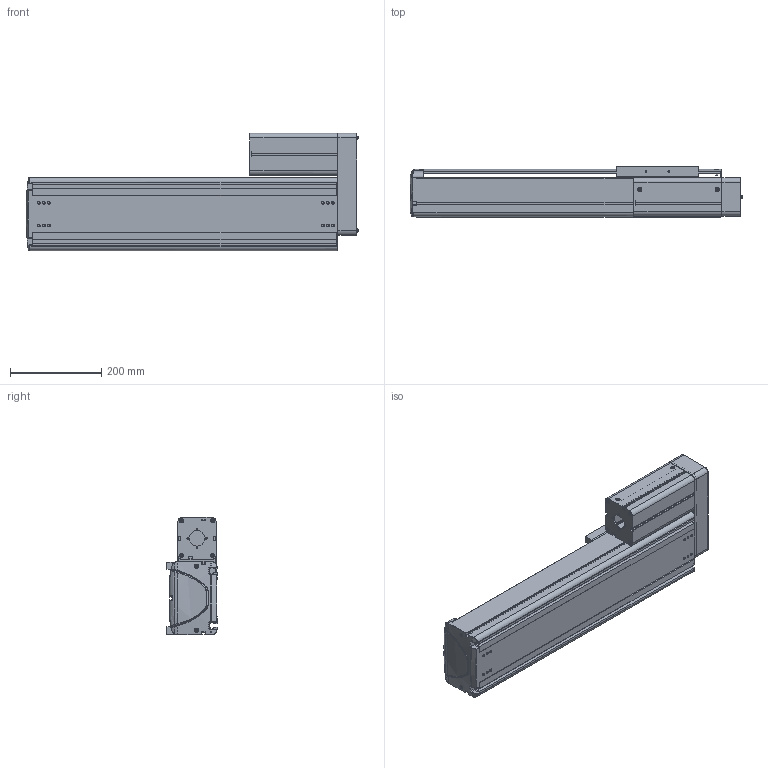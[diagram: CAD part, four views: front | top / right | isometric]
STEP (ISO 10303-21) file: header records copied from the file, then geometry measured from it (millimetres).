
FILE_DESCRIPTION((''),'2;1');
FILE_NAME('BE50F-UR-M_B-40_IGS_PRT','2017-06-18T',(' '),(''),'PRO/ENGINEER BY PARAMETRIC TECHNOLOGY CORPORATION, 2015030','PRO/ENGINEER BY PARAMETRIC TECHNOLOGY CORPORATION, 2015030','');
FILE_SCHEMA(('CONFIG_CONTROL_DESIGN'));
Length unit declared in the file: millimetre
Products named in the file (1): BE50F-UR-M_B-40_IGS_PRT
Bounding box: 725.88 x 110 x 257 mm (x, y, z)
Volume: 3805891.6 mm3; surface area: 1418986.7 mm2
Topology: 2 solids, 111 shells, 2115 faces, 5684 edges, 3698 vertices
Faces by surface type: plane 996, cylinder 865, cone 111, torus 59, bspline 52, sphere 32
Entity records: 69381 total; most frequent: CARTESIAN_POINT 15647, DIRECTION 11318, ORIENTED_EDGE 10892, EDGE_CURVE 5650, AXIS2_PLACEMENT_3D 4013, VERTEX_POINT 3698, VECTOR 3292, LINE 3292
